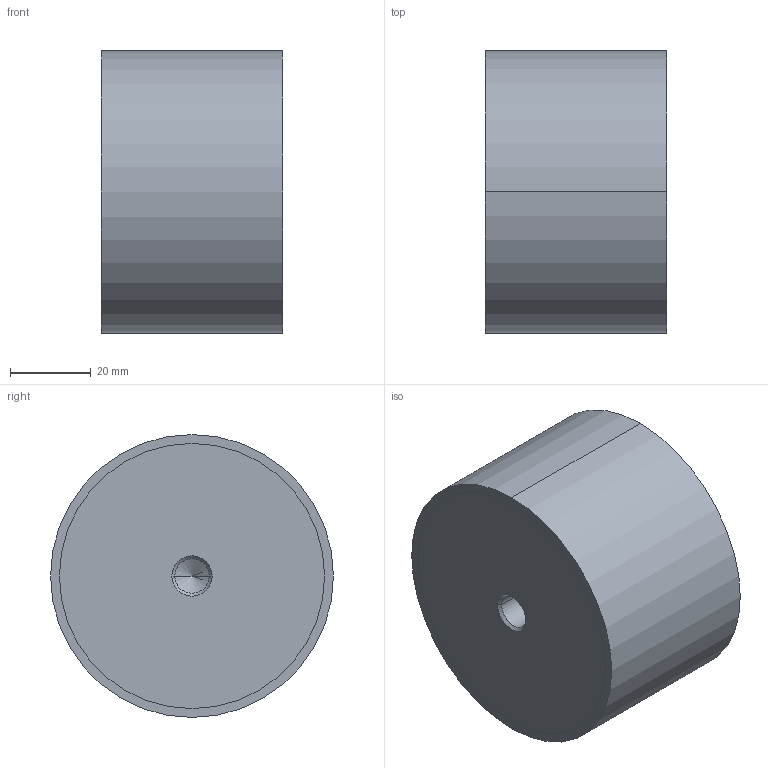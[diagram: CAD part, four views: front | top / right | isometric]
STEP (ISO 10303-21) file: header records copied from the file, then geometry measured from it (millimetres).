
FILE_DESCRIPTION (( 'STEP AP214' ), '1' );
FILE_NAME ('451-70-45-M10-EE-70.step', '2020-03-05T09:14:47', ( '' ), ( '' ), 'SwSTEP 2.0', 'SolidWorks 2019', '' );
FILE_SCHEMA (( 'AUTOMOTIVE_DESIGN' ));
Length unit declared in the file: millimetre
Products named in the file (1): 451-70-45-M10-EE-70
Bounding box: 45 x 70 x 70 mm (x, y, z)
Volume: 171866.9 mm3; surface area: 18127.8 mm2
Topology: 1 solids, 1 shells, 22 faces, 46 edges, 26 vertices
Faces by surface type: cylinder 10, cone 8, plane 4
Entity records: 684 total; most frequent: DIRECTION 112, CARTESIAN_POINT 91, ORIENTED_EDGE 84, AXIS2_PLACEMENT_3D 47, EDGE_CURVE 42, EDGE_LOOP 26, VERTEX_POINT 26, CIRCLE 24
